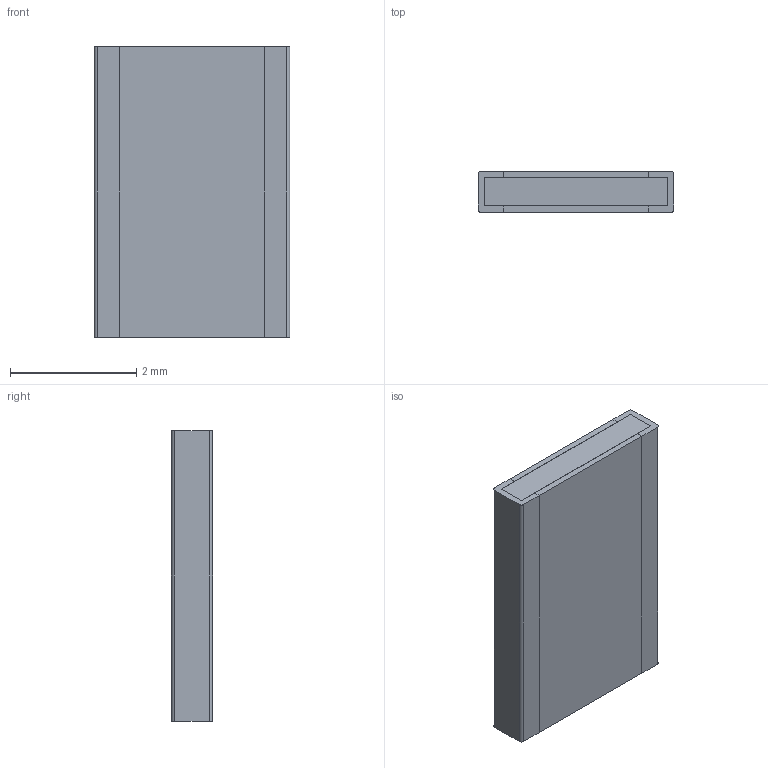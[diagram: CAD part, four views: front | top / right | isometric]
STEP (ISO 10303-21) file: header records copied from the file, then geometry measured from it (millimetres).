
FILE_DESCRIPTION (( 'STEP AP214' ), '1' );
FILE_NAME ( 'RESC3146X65.STEP', '2013-08-13T09:45:22', ( '' ), ( '' ), 'FPX Expert 2013', 'PCB Libraries', '' );
FILE_SCHEMA (( 'AUTOMOTIVE_DESIGN' ));
Length unit declared in the file: millimetre
Products named in the file (1): RESC3146X65
Bounding box: 3.1 x 0.65 x 4.6 mm (x, y, z)
Volume: 9.3 mm3; surface area: 103.5 mm2
Topology: 5 solids, 5 shells, 42 faces, 96 edges, 64 vertices
Faces by surface type: plane 38, cylinder 4
Entity records: 1351 total; most frequent: CARTESIAN_POINT 203, ORIENTED_EDGE 192, DIRECTION 190, EDGE_CURVE 96, VECTOR 88, LINE 88, VERTEX_POINT 64, AXIS2_PLACEMENT_3D 51
